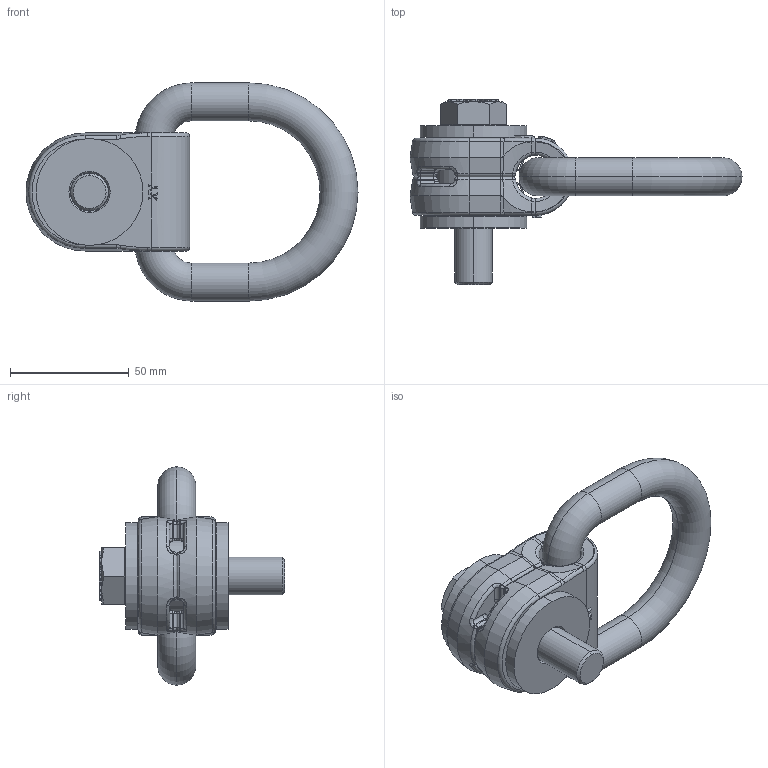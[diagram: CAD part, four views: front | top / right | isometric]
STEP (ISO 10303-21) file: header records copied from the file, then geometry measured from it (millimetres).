
FILE_DESCRIPTION (( 'STEP AP203' ), '1' );
FILE_NAME ('LBG 58 11UNC 15t.STEP', '2024-06-20T18:18:41', ( '' ), ( '' ), 'SwSTEP 2.0', 'SolidWorks 2023', '' );
FILE_SCHEMA (( 'CONFIG_CONTROL_DESIGN' ));
Length unit declared in the file: millimetre
Products named in the file (8): 09 - PARAFUSO M16 - LBG-3_M16; 05 - MOLA CIRCULAR - LBG-3_M16; 01 - BASE - USINADA 001-M33522-RT1; 04 - MOLA c - LBG-3_ABERTA; LBG 58 11UNC 15t; 03 - ALÇA - LBG-3; 07 - BUCHA PARTE - 02_B - BUCHA - M16 - 02; 06 - BUCHA PARTE - 01_B - BUCHA - M16 - 01
Assembly tree (7 placements, depth 2):
  LBG 58 11UNC 15t
    01 - BASE - USINADA 001-M33522-RT1
    03 - ALÇA - LBG-3
    04 - MOLA c - LBG-3_ABERTA
    05 - MOLA CIRCULAR - LBG-3_M16
    06 - BUCHA PARTE - 01_B - BUCHA - M16 - 01
    07 - BUCHA PARTE - 02_B - BUCHA - M16 - 02
    09 - PARAFUSO M16 - LBG-3_M16
Bounding box: 139.97 x 78.01 x 92 mm (x, y, z)
Volume: 154491.1 mm3; surface area: 49873.8 mm2
Topology: 7 solids, 7 shells, 814 faces, 1949 edges, 1186 vertices
Faces by surface type: plane 296, bspline 280, cylinder 118, torus 56, cone 32, sphere 32
Entity records: 40147 total; most frequent: CARTESIAN_POINT 22741, ORIENTED_EDGE 3890, DIRECTION 2641, EDGE_CURVE 1945, VERTEX_POINT 1186, AXIS2_PLACEMENT_3D 950, EDGE_LOOP 871, FACE_OUTER_BOUND 814
